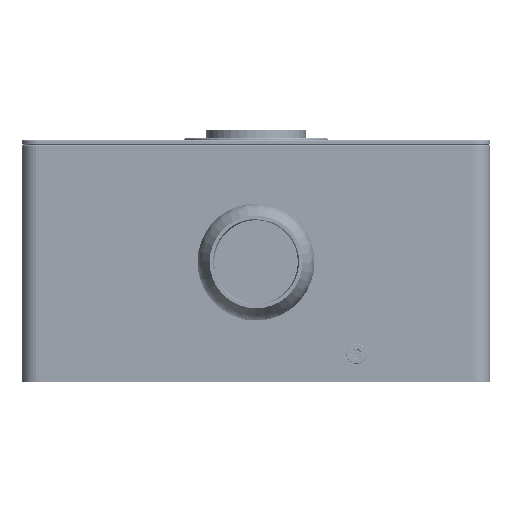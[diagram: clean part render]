
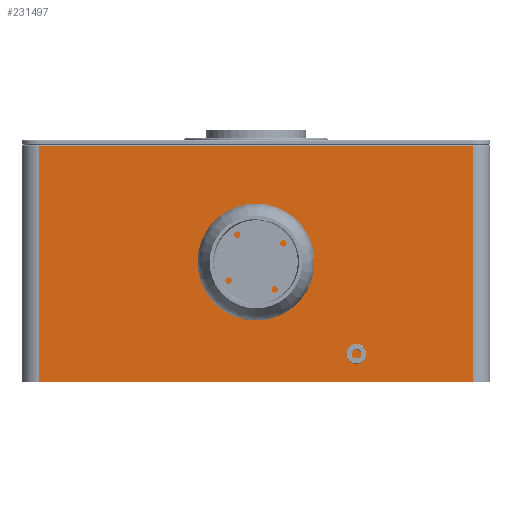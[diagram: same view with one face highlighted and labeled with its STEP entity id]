
A CAD part, front view. The second image highlights one B-rep face of the part: STEP entity #231497.
In plain terms, the highlighted planar face has unit normal (0, -1, 0).
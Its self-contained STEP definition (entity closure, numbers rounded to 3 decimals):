
#1769 = AXIS2_PLACEMENT_3D ( 'NONE', #42294, #371743, #46052 ) ;
#3676 = ORIENTED_EDGE ( 'NONE', *, *, #167405, .F. ) ;
#14196 = VERTEX_POINT ( 'NONE', #250062 ) ;
#15523 = VERTEX_POINT ( 'NONE', #339867 ) ;
#17188 = VERTEX_POINT ( 'NONE', #85882 ) ;
#18422 = CARTESIAN_POINT ( 'NONE',  ( 0., -140., 0. ) ) ;
#27526 = ORIENTED_EDGE ( 'NONE', *, *, #209781, .F. ) ;
#27723 = EDGE_LOOP ( 'NONE', ( #92940, #247765 ) ) ;
#28038 = AXIS2_PLACEMENT_3D ( 'NONE', #168875, #350022, #28087 ) ;
#28087 = DIRECTION ( 'NONE',  ( 0., 0., -1. ) ) ;
#29325 = CIRCLE ( 'NONE', #189490, 1.8 ) ;
#29666 = EDGE_CURVE ( 'NONE', #17188, #90233, #87417, .T. ) ;
#31213 = EDGE_CURVE ( 'NONE', #108368, #100835, #52668, .T. ) ;
#31760 = VERTEX_POINT ( 'NONE', #175501 ) ;
#35237 = CARTESIAN_POINT ( 'NONE',  ( 0., -140., 0. ) ) ;
#40661 = EDGE_CURVE ( 'NONE', #205771, #162780, #218981, .T. ) ;
#41170 = EDGE_CURVE ( 'NONE', #90233, #17188, #65137, .T. ) ;
#42294 = CARTESIAN_POINT ( 'NONE',  ( 14., -140., 14. ) ) ;
#42688 = CARTESIAN_POINT ( 'NONE',  ( -14., -140., -12.2 ) ) ;
#44960 = CARTESIAN_POINT ( 'NONE',  ( -14., -140., 14. ) ) ;
#45708 = CARTESIAN_POINT ( 'NONE',  ( -130., -140., 70. ) ) ;
#46052 = DIRECTION ( 'NONE',  ( 0., 0., -1. ) ) ;
#51398 = FACE_OUTER_BOUND ( 'NONE', #164336, .T. ) ;
#52668 = LINE ( 'NONE', #347541, #309976 ) ;
#58034 = AXIS2_PLACEMENT_3D ( 'NONE', #239532, #93059, #100638 ) ;
#58116 = CARTESIAN_POINT ( 'NONE',  ( -14., -140., 15.8 ) ) ;
#59131 = CARTESIAN_POINT ( 'NONE',  ( -130., -140., 70. ) ) ;
#61529 = DIRECTION ( 'NONE',  ( 0., -1., 0. ) ) ;
#63416 = DIRECTION ( 'NONE',  ( 0., -1., 0. ) ) ;
#65137 = CIRCLE ( 'NONE', #336199, 4. ) ;
#76464 = DIRECTION ( 'NONE',  ( 0., 0., 1. ) ) ;
#82177 = FACE_BOUND ( 'NONE', #27723, .T. ) ;
#85882 = CARTESIAN_POINT ( 'NONE',  ( 0., -140., -4. ) ) ;
#87417 = CIRCLE ( 'NONE', #93738, 4. ) ;
#90233 = VERTEX_POINT ( 'NONE', #324965 ) ;
#92940 = ORIENTED_EDGE ( 'NONE', *, *, #332955, .F. ) ;
#93059 = DIRECTION ( 'NONE',  ( 0., -1., 0. ) ) ;
#93738 = AXIS2_PLACEMENT_3D ( 'NONE', #18422, #135960, #253533 ) ;
#97573 = VECTOR ( 'NONE', #364695, 1000. ) ;
#98086 = EDGE_LOOP ( 'NONE', ( #252287, #3676 ) ) ;
#99071 = DIRECTION ( 'NONE',  ( -1., 0., 0. ) ) ;
#100638 = DIRECTION ( 'NONE',  ( 0., 0., -1. ) ) ;
#100835 = VERTEX_POINT ( 'NONE', #264680 ) ;
#102407 = VECTOR ( 'NONE', #265325, 1000. ) ;
#104172 = VECTOR ( 'NONE', #99071, 1000. ) ;
#108368 = VERTEX_POINT ( 'NONE', #115760 ) ;
#109947 = VERTEX_POINT ( 'NONE', #58116 ) ;
#111111 = FACE_BOUND ( 'NONE', #173937, .T. ) ;
#111773 = DIRECTION ( 'NONE',  ( 0., 0., -1. ) ) ;
#113458 = EDGE_CURVE ( 'NONE', #288066, #253904, #118280, .T. ) ;
#115760 = CARTESIAN_POINT ( 'NONE',  ( 130., -140., 69.5 ) ) ;
#118280 = CIRCLE ( 'NONE', #266062, 1.8 ) ;
#124103 = DIRECTION ( 'NONE',  ( 0., -1., 0. ) ) ;
#127104 = DIRECTION ( 'NONE',  ( 0., 0., -1. ) ) ;
#128020 = LINE ( 'NONE', #363162, #104172 ) ;
#134353 = FACE_BOUND ( 'NONE', #284411, .T. ) ;
#135960 = DIRECTION ( 'NONE',  ( 0., -1., 0. ) ) ;
#136774 = EDGE_CURVE ( 'NONE', #108368, #364202, #248974, .T. ) ;
#137129 = CARTESIAN_POINT ( 'NONE',  ( -130., -140., 69.5 ) ) ;
#139471 = ORIENTED_EDGE ( 'NONE', *, *, #31213, .F. ) ;
#139645 = ORIENTED_EDGE ( 'NONE', *, *, #136774, .T. ) ;
#143890 = AXIS2_PLACEMENT_3D ( 'NONE', #44960, #124103, #274396 ) ;
#148040 = EDGE_LOOP ( 'NONE', ( #371783, #27526 ) ) ;
#152680 = EDGE_CURVE ( 'NONE', #100835, #15523, #128020, .T. ) ;
#155582 = ORIENTED_EDGE ( 'NONE', *, *, #41170, .F. ) ;
#155924 = DIRECTION ( 'NONE',  ( 0., 0., -1. ) ) ;
#162780 = VERTEX_POINT ( 'NONE', #42688 ) ;
#164336 = EDGE_LOOP ( 'NONE', ( #139471, #139645, #222199, #186182 ) ) ;
#167076 = DIRECTION ( 'NONE',  ( 0., 1., 0. ) ) ;
#167405 = EDGE_CURVE ( 'NONE', #31760, #14196, #358657, .T. ) ;
#168875 = CARTESIAN_POINT ( 'NONE',  ( -14., -140., -14. ) ) ;
#173937 = EDGE_LOOP ( 'NONE', ( #361739, #155582 ) ) ;
#174740 = CIRCLE ( 'NONE', #143890, 1.8 ) ;
#175501 = CARTESIAN_POINT ( 'NONE',  ( 14., -140., 15.8 ) ) ;
#179107 = AXIS2_PLACEMENT_3D ( 'NONE', #325635, #61529, #111773 ) ;
#182732 = CARTESIAN_POINT ( 'NONE',  ( -14., -140., 12.2 ) ) ;
#186182 = ORIENTED_EDGE ( 'NONE', *, *, #152680, .F. ) ;
#189490 = AXIS2_PLACEMENT_3D ( 'NONE', #230310, #232215, #234083 ) ;
#194117 = PLANE ( 'NONE',  #232021 ) ;
#195857 = CIRCLE ( 'NONE', #275880, 1.8 ) ;
#202654 = VERTEX_POINT ( 'NONE', #182732 ) ;
#205771 = VERTEX_POINT ( 'NONE', #369995 ) ;
#208747 = DIRECTION ( 'NONE',  ( 0., 0., -1. ) ) ;
#209781 = EDGE_CURVE ( 'NONE', #162780, #205771, #296015, .T. ) ;
#210648 = DIRECTION ( 'NONE',  ( 0., -1., 0. ) ) ;
#213769 = CARTESIAN_POINT ( 'NONE',  ( 14., -140., -14. ) ) ;
#218981 = CIRCLE ( 'NONE', #28038, 1.8 ) ;
#219574 = CARTESIAN_POINT ( 'NONE',  ( 14., -140., -14. ) ) ;
#220660 = EDGE_CURVE ( 'NONE', #14196, #31760, #29325, .T. ) ;
#221733 = ORIENTED_EDGE ( 'NONE', *, *, #251444, .F. ) ;
#222199 = ORIENTED_EDGE ( 'NONE', *, *, #261277, .T. ) ;
#224175 = CIRCLE ( 'NONE', #58034, 1.8 ) ;
#230030 = CARTESIAN_POINT ( 'NONE',  ( 14., -140., -12.2 ) ) ;
#230310 = CARTESIAN_POINT ( 'NONE',  ( 14., -140., 14. ) ) ;
#231497 = ADVANCED_FACE ( 'NONE', ( #244331, #286512, #134353, #82177, #111111, #51398 ), #194117, .F. ) ;
#232021 = AXIS2_PLACEMENT_3D ( 'NONE', #45708, #167076, #76464 ) ;
#232215 = DIRECTION ( 'NONE',  ( 0., -1., 0. ) ) ;
#234083 = DIRECTION ( 'NONE',  ( 0., 0., -1. ) ) ;
#239532 = CARTESIAN_POINT ( 'NONE',  ( -14., -140., 14. ) ) ;
#241186 = ORIENTED_EDGE ( 'NONE', *, *, #113458, .F. ) ;
#244331 = FACE_BOUND ( 'NONE', #148040, .T. ) ;
#247765 = ORIENTED_EDGE ( 'NONE', *, *, #342998, .F. ) ;
#248974 = LINE ( 'NONE', #137129, #97573 ) ;
#250062 = CARTESIAN_POINT ( 'NONE',  ( 14., -140., 12.2 ) ) ;
#251444 = EDGE_CURVE ( 'NONE', #253904, #288066, #195857, .T. ) ;
#252287 = ORIENTED_EDGE ( 'NONE', *, *, #220660, .F. ) ;
#253533 = DIRECTION ( 'NONE',  ( 0., 0., -1. ) ) ;
#253904 = VERTEX_POINT ( 'NONE', #230030 ) ;
#261277 = EDGE_CURVE ( 'NONE', #364202, #15523, #377255, .T. ) ;
#264680 = CARTESIAN_POINT ( 'NONE',  ( 130., -140., -72. ) ) ;
#265325 = DIRECTION ( 'NONE',  ( 0., 0., -1. ) ) ;
#266062 = AXIS2_PLACEMENT_3D ( 'NONE', #213769, #63416, #155924 ) ;
#269217 = CARTESIAN_POINT ( 'NONE',  ( 14., -140., -15.8 ) ) ;
#274396 = DIRECTION ( 'NONE',  ( 0., 0., -1. ) ) ;
#275880 = AXIS2_PLACEMENT_3D ( 'NONE', #219574, #364155, #127104 ) ;
#284411 = EDGE_LOOP ( 'NONE', ( #241186, #221733 ) ) ;
#286512 = FACE_BOUND ( 'NONE', #98086, .T. ) ;
#287792 = DIRECTION ( 'NONE',  ( 0., 0., -1. ) ) ;
#288066 = VERTEX_POINT ( 'NONE', #269217 ) ;
#296015 = CIRCLE ( 'NONE', #179107, 1.8 ) ;
#309976 = VECTOR ( 'NONE', #287792, 1000. ) ;
#324965 = CARTESIAN_POINT ( 'NONE',  ( 0., -140., 4. ) ) ;
#325635 = CARTESIAN_POINT ( 'NONE',  ( -14., -140., -14. ) ) ;
#332955 = EDGE_CURVE ( 'NONE', #202654, #109947, #174740, .T. ) ;
#336199 = AXIS2_PLACEMENT_3D ( 'NONE', #35237, #210648, #208747 ) ;
#339524 = CARTESIAN_POINT ( 'NONE',  ( -130., -140., 69.5 ) ) ;
#339867 = CARTESIAN_POINT ( 'NONE',  ( -130., -140., -72. ) ) ;
#342998 = EDGE_CURVE ( 'NONE', #109947, #202654, #224175, .T. ) ;
#347541 = CARTESIAN_POINT ( 'NONE',  ( 130., -140., 70. ) ) ;
#350022 = DIRECTION ( 'NONE',  ( 0., -1., 0. ) ) ;
#358657 = CIRCLE ( 'NONE', #1769, 1.8 ) ;
#361739 = ORIENTED_EDGE ( 'NONE', *, *, #29666, .F. ) ;
#363162 = CARTESIAN_POINT ( 'NONE',  ( 130., -140., -72. ) ) ;
#364155 = DIRECTION ( 'NONE',  ( 0., -1., 0. ) ) ;
#364202 = VERTEX_POINT ( 'NONE', #339524 ) ;
#364695 = DIRECTION ( 'NONE',  ( -1., 0., 0. ) ) ;
#369995 = CARTESIAN_POINT ( 'NONE',  ( -14., -140., -15.8 ) ) ;
#371743 = DIRECTION ( 'NONE',  ( 0., -1., 0. ) ) ;
#371783 = ORIENTED_EDGE ( 'NONE', *, *, #40661, .F. ) ;
#377255 = LINE ( 'NONE', #59131, #102407 ) ;
